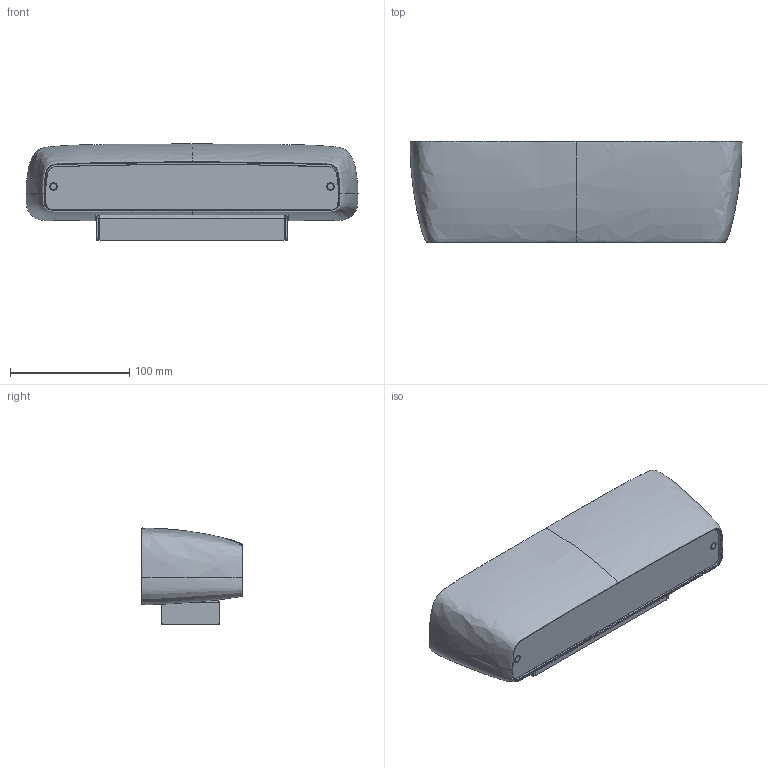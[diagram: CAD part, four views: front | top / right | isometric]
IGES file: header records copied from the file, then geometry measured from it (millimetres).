
Start section: SolidWorks IGES file using analytic representation for surfaces
Global section: file name: C:\Users\tungari.NEMOLIGHTING\Desktop\3D\WALL\3D_FLACAAAA\DEF\3D_FLACA.IGS; native system: SolidWorks 2016; preprocessor: SolidWorks 2016; author: tungari; date: 180312.180509; units: millimetre
Bounding box: 278 x 84.5 x 80.45 mm (x, y, z)
Surface area: 183706.9 mm2 (no closed solid volume)
Topology: 0 solids, 0 shells, 207 faces, 2474 edges, 2474 vertices
Faces by surface type: bspline 127, revolution 80
